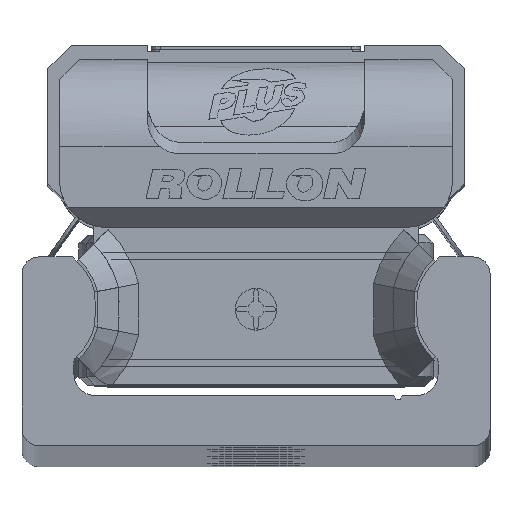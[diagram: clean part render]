
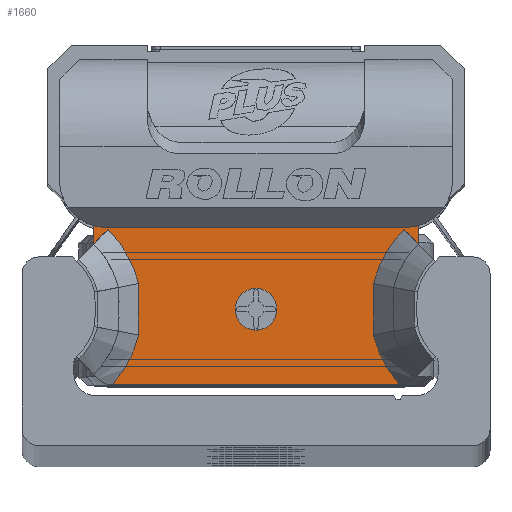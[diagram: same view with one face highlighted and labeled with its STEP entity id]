
A CAD part, top view. The second image highlights one B-rep face of the part: STEP entity #1660.
In plain terms, the highlighted planar face has unit normal (0, 0, 1) as drawn and (0, 0, -1) by its records, which use the part's own axes.
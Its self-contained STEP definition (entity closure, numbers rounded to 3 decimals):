
#1660 = ADVANCED_FACE( '', ( #3548, #3549 ), #3550, .F. );
#3548 = FACE_BOUND( '', #5726, .T. );
#3549 = FACE_OUTER_BOUND( '', #5727, .T. );
#3550 = PLANE( '', #5728 );
#5726 = EDGE_LOOP( '', ( #10306 ) );
#5727 = EDGE_LOOP( '', ( #10307, #10308, #10309, #10310, #10311, #10312, #10313, #10314, #10315, #10316, #10317, #10318, #10319, #10320 ) );
#5728 = AXIS2_PLACEMENT_3D( '', #10321, #10322, #10323 );
#10306 = ORIENTED_EDGE( '', *, *, #13116, .T. );
#10307 = ORIENTED_EDGE( '', *, *, #13922, .F. );
#10308 = ORIENTED_EDGE( '', *, *, #13468, .T. );
#10309 = ORIENTED_EDGE( '', *, *, #13923, .T. );
#10310 = ORIENTED_EDGE( '', *, *, #13079, .T. );
#10311 = ORIENTED_EDGE( '', *, *, #13260, .T. );
#10312 = ORIENTED_EDGE( '', *, *, #13452, .T. );
#10313 = ORIENTED_EDGE( '', *, *, #13924, .T. );
#10314 = ORIENTED_EDGE( '', *, *, #13925, .T. );
#10315 = ORIENTED_EDGE( '', *, *, #13926, .T. );
#10316 = ORIENTED_EDGE( '', *, *, #13927, .T. );
#10317 = ORIENTED_EDGE( '', *, *, #13199, .T. );
#10318 = ORIENTED_EDGE( '', *, *, #13928, .T. );
#10319 = ORIENTED_EDGE( '', *, *, #13929, .T. );
#10320 = ORIENTED_EDGE( '', *, *, #12971, .T. );
#10321 = CARTESIAN_POINT( '', ( 9.7, 4.89, -10.6 ) );
#10322 = DIRECTION( '', ( 0., 0., 1. ) );
#10323 = DIRECTION( '', ( 1., 0., 0. ) );
#12971 = EDGE_CURVE( '', #15747, #15745, #15748, .T. );
#13079 = EDGE_CURVE( '', #15910, #15915, #15917, .T. );
#13116 = EDGE_CURVE( '', #15974, #15974, #15975, .T. );
#13199 = EDGE_CURVE( '', #14354, #16098, #16100, .T. );
#13260 = EDGE_CURVE( '', #15915, #15507, #16193, .T. );
#13452 = EDGE_CURVE( '', #15507, #16471, #16473, .T. );
#13468 = EDGE_CURVE( '', #16495, #16493, #16496, .T. );
#13922 = EDGE_CURVE( '', #16495, #15745, #17092, .T. );
#13923 = EDGE_CURVE( '', #16493, #15910, #17093, .T. );
#13924 = EDGE_CURVE( '', #16471, #17094, #17095, .T. );
#13925 = EDGE_CURVE( '', #17094, #17096, #17097, .T. );
#13926 = EDGE_CURVE( '', #17096, #17098, #17099, .T. );
#13927 = EDGE_CURVE( '', #17098, #14354, #17100, .T. );
#13928 = EDGE_CURVE( '', #16098, #17101, #17102, .T. );
#13929 = EDGE_CURVE( '', #17101, #15747, #17103, .T. );
#14354 = VERTEX_POINT( '', #17605 );
#15507 = VERTEX_POINT( '', #19281 );
#15745 = VERTEX_POINT( '', #19622 );
#15747 = VERTEX_POINT( '', #19625 );
#15748 = LINE( '', #19626, #19627 );
#15910 = VERTEX_POINT( '', #19854 );
#15915 = VERTEX_POINT( '', #19860 );
#15917 = CIRCLE( '', #19863, 2.8 );
#15974 = VERTEX_POINT( '', #19956 );
#15975 = CIRCLE( '', #19957, 1.25 );
#16098 = VERTEX_POINT( '', #20124 );
#16100 = B_SPLINE_CURVE_WITH_KNOTS( '', 2, ( #20127, #20128, #20129 ), .UNSPECIFIED., .F., .F., ( 3, 3 ), ( 0.1, 1. ), .UNSPECIFIED. );
#16193 = LINE( '', #20256, #20257 );
#16471 = VERTEX_POINT( '', #20641 );
#16473 = LINE( '', #20644, #20645 );
#16493 = VERTEX_POINT( '', #20673 );
#16495 = VERTEX_POINT( '', #20676 );
#16496 = CIRCLE( '', #20677, 2.8 );
#17092 = LINE( '', #21577, #21578 );
#17093 = LINE( '', #21579, #21580 );
#17094 = VERTEX_POINT( '', #21581 );
#17095 = B_SPLINE_CURVE_WITH_KNOTS( '', 2, ( #21582, #21583, #21584, #21585, #21586 ), .UNSPECIFIED., .F., .F., ( 3, 2, 3 ), ( 0., 0.5, 1. ), .UNSPECIFIED. );
#17096 = VERTEX_POINT( '', #21587 );
#17097 = B_SPLINE_CURVE_WITH_KNOTS( '', 2, ( #21588, #21589, #21590 ), .UNSPECIFIED., .F., .F., ( 3, 3 ), ( 0., 1. ), .UNSPECIFIED. );
#17098 = VERTEX_POINT( '', #21591 );
#17099 = B_SPLINE_CURVE_WITH_KNOTS( '', 2, ( #21592, #21593, #21594 ), .UNSPECIFIED., .F., .F., ( 3, 3 ), ( 0., 1. ), .UNSPECIFIED. );
#17100 = LINE( '', #21595, #21596 );
#17101 = VERTEX_POINT( '', #21597 );
#17102 = B_SPLINE_CURVE_WITH_KNOTS( '', 2, ( #21598, #21599, #21600 ), .UNSPECIFIED., .F., .F., ( 3, 3 ), ( 0., 1. ), .UNSPECIFIED. );
#17103 = B_SPLINE_CURVE_WITH_KNOTS( '', 2, ( #21601, #21602, #21603 ), .UNSPECIFIED., .F., .F., ( 3, 3 ), ( 0., 1. ), .UNSPECIFIED. );
#17605 = CARTESIAN_POINT( '', ( -8.59, -4.893, -10.6 ) );
#19281 = CARTESIAN_POINT( '', ( 9.7, 3.497, -10.6 ) );
#19622 = CARTESIAN_POINT( '', ( -9.7, 3.494, -10.6 ) );
#19625 = CARTESIAN_POINT( '', ( -8.853, 4.366, -10.6 ) );
#19626 = CARTESIAN_POINT( '', ( -8.853, 4.366, -10.6 ) );
#19627 = VECTOR( '', #23456, 1000. );
#19854 = CARTESIAN_POINT( '', ( 8.95, 4.51, -10.6 ) );
#19860 = CARTESIAN_POINT( '', ( 9.7, 4.612, -10.6 ) );
#19863 = AXIS2_PLACEMENT_3D( '', #23577, #23578, #23579 );
#19956 = CARTESIAN_POINT( '', ( 1.25, -0.39, -10.6 ) );
#19957 = AXIS2_PLACEMENT_3D( '', #23615, #23616, #23617 );
#20124 = CARTESIAN_POINT( '', ( -7.031, -1.944, -10.6 ) );
#20127 = CARTESIAN_POINT( '', ( -8.587, -4.89, -10.6 ) );
#20128 = CARTESIAN_POINT( '', ( -7.432, -3.63, -10.6 ) );
#20129 = CARTESIAN_POINT( '', ( -7.031, -1.944, -10.6 ) );
#20256 = CARTESIAN_POINT( '', ( 9.7, 4.89, -10.6 ) );
#20257 = VECTOR( '', #23780, 1000. );
#20641 = CARTESIAN_POINT( '', ( 8.853, 4.366, -10.6 ) );
#20644 = CARTESIAN_POINT( '', ( 9.7, 3.501, -10.6 ) );
#20645 = VECTOR( '', #24033, 1000. );
#20673 = CARTESIAN_POINT( '', ( -8.95, 4.51, -10.6 ) );
#20676 = CARTESIAN_POINT( '', ( -9.7, 4.612, -10.6 ) );
#20677 = AXIS2_PLACEMENT_3D( '', #24048, #24049, #24050 );
#21577 = CARTESIAN_POINT( '', ( -9.7, 4.89, -10.6 ) );
#21578 = VECTOR( '', #24508, 1000. );
#21579 = CARTESIAN_POINT( '', ( 9.7, 4.51, -10.6 ) );
#21580 = VECTOR( '', #24509, 1000. );
#21581 = CARTESIAN_POINT( '', ( 7.031, 1.144, -10.6 ) );
#21582 = CARTESIAN_POINT( '', ( 8.853, 4.366, -10.6 ) );
#21583 = CARTESIAN_POINT( '', ( 8.182, 3.708, -10.6 ) );
#21584 = CARTESIAN_POINT( '', ( 7.715, 2.883, -10.6 ) );
#21585 = CARTESIAN_POINT( '', ( 7.249, 2.058, -10.6 ) );
#21586 = CARTESIAN_POINT( '', ( 7.031, 1.144, -10.6 ) );
#21587 = CARTESIAN_POINT( '', ( 7.031, -1.944, -10.6 ) );
#21588 = CARTESIAN_POINT( '', ( 7.031, 1.144, -10.6 ) );
#21589 = CARTESIAN_POINT( '', ( 6.929, -0.4, -10.6 ) );
#21590 = CARTESIAN_POINT( '', ( 7.031, -1.944, -10.6 ) );
#21591 = CARTESIAN_POINT( '', ( 8.59, -4.893, -10.6 ) );
#21592 = CARTESIAN_POINT( '', ( 7.031, -1.944, -10.6 ) );
#21593 = CARTESIAN_POINT( '', ( 7.429, -3.615, -10.6 ) );
#21594 = CARTESIAN_POINT( '', ( 8.588, -4.89, -10.6 ) );
#21595 = CARTESIAN_POINT( '', ( 9.7, -4.89, -10.6 ) );
#21596 = VECTOR( '', #24510, 1000. );
#21597 = CARTESIAN_POINT( '', ( -7.031, 1.144, -10.6 ) );
#21598 = CARTESIAN_POINT( '', ( -7.031, -1.944, -10.6 ) );
#21599 = CARTESIAN_POINT( '', ( -6.929, -0.4, -10.6 ) );
#21600 = CARTESIAN_POINT( '', ( -7.031, 1.144, -10.6 ) );
#21601 = CARTESIAN_POINT( '', ( -7.031, 1.144, -10.6 ) );
#21602 = CARTESIAN_POINT( '', ( -7.477, 3.018, -10.6 ) );
#21603 = CARTESIAN_POINT( '', ( -8.853, 4.366, -10.6 ) );
#23456 = DIRECTION( '', ( -0.7, -0.714, 0. ) );
#23577 = CARTESIAN_POINT( '', ( 8.95, 7.31, -10.6 ) );
#23578 = DIRECTION( '', ( 0., 0., 1. ) );
#23579 = DIRECTION( '', ( 1., 0., 0. ) );
#23615 = CARTESIAN_POINT( '', ( 0., -0.39, -10.6 ) );
#23616 = DIRECTION( '', ( 0., 0., 1. ) );
#23617 = DIRECTION( '', ( 1., 0., 0. ) );
#23780 = DIRECTION( '', ( 0., -1., 0. ) );
#24033 = DIRECTION( '', ( -0.7, 0.714, 0. ) );
#24048 = CARTESIAN_POINT( '', ( -8.95, 7.31, -10.6 ) );
#24049 = DIRECTION( '', ( 0., 0., 1. ) );
#24050 = DIRECTION( '', ( 1., 0., 0. ) );
#24508 = DIRECTION( '', ( 0., -1., 0. ) );
#24509 = DIRECTION( '', ( 1., 0., 0. ) );
#24510 = DIRECTION( '', ( -1., 0., 0. ) );
